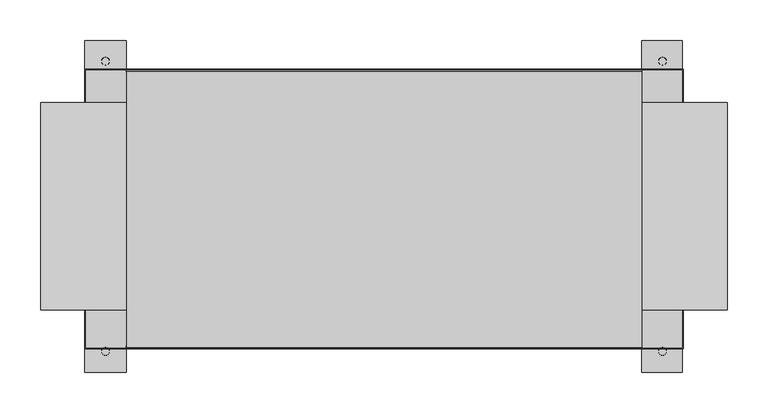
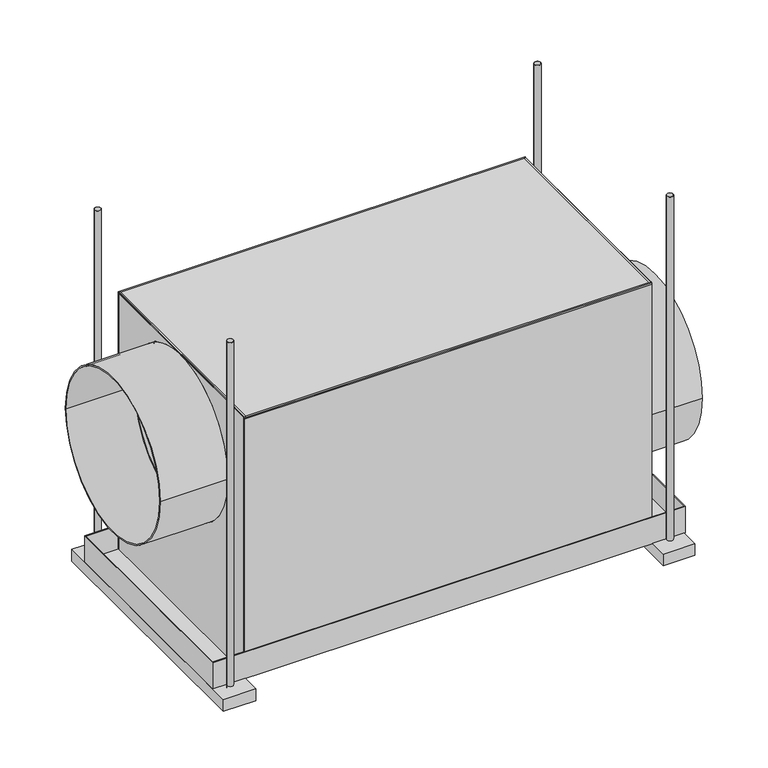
"""IFC4 building model written with IfcOpenShell, lengths in millimetres: proxy geometry, Dehumidifier2 : Dehumidifier2."""

from ifc_helpers import new_model, si_unit, point, frame, frame_2d, origin, origin_with_axes, place, context, project, spatial, polyline, circle_curve, trimmed, segment, composite_curve, outline, extrude, source, transform, mapped, element, save


def mechanical_equipment_66c16102(model_context):
    return source(origin(), model_context, "Body", "SweptSolid", [
        extrude(outline(polyline([(315.468, 367.9679849), (315.468, 30.1159835), (-315.0, 30.1159835), (-315.0, 367.9679849), (315.468, 367.9679849)])), frame((0.0, 0.0, 424.0), z_axis=(0.0, 0.0, 1.0), x_axis=(1.0, 0.0, 0.0)), (0.0, 0.0, 1.0), 2.0),
        extrude(outline(polyline([(32.1159835, 426.3135981), (367.9679849, 426.3135981), (367.9679849, 5.0), (32.1159835, 5.0), (32.1159835, 426.3135981)]), holes=[composite_curve([segment(trimmed(circle_curve(frame_2d((203.2, 296.7736)), 127.0), [point((330.2, 296.7736))], [point((76.2, 296.7736))], True, "CARTESIAN"), True, "CONTINUOUS"), segment(trimmed(circle_curve(frame_2d((203.2, 296.7736)), 127.0), [point((76.2, 296.7736))], [point((330.2, 296.7736))], True, "CARTESIAN"), True, "CONTINUOUS")], self_intersect=False)]), frame((-315.0, 0.0, 0.0), z_axis=(1.0, 0.0, 0.0), x_axis=(0.0, 1.0, 0.0)), (0.0, 0.0, 1.0), 2.0),
        extrude(outline(polyline([(367.9679849, 426.3135981), (367.9679849, 5.0), (32.1159835, 5.0), (32.1159835, 426.3135981), (367.9679849, 426.3135981)]), holes=[composite_curve([segment(trimmed(circle_curve(frame_2d((203.1999964, 172.8216)), 127.0), [point((76.1999964, 172.8216))], [point((330.1999964, 172.8216))], True, "CARTESIAN"), True, "CONTINUOUS"), segment(trimmed(circle_curve(frame_2d((203.1999964, 172.8216)), 127.0), [point((330.1999964, 172.8216))], [point((76.1999964, 172.8216))], True, "CARTESIAN"), True, "CONTINUOUS")], self_intersect=False)]), frame((313.0, 0.0, 0.0), z_axis=(1.0, 0.0, 0.0), x_axis=(0.0, 1.0, 0.0)), (0.0, 0.0, 1.0), 2.0),
        extrude(outline(polyline([(-315.468, 0.0), (-366.268, 0.0), (-366.268, 406.0), (-315.468, 406.0), (-315.468, 0.0)])), frame((0.0, 0.0, -19.05), z_axis=(0.0, 0.0, 1.0), x_axis=(1.0, 0.0, 0.0)), (0.0, 0.0, 1.0), 19.05),
        extrude(outline(polyline([(364.7439932, 0.0), (315.468, 0.0), (315.468, 406.0), (364.7439932, 406.0), (364.7439932, 0.0)])), frame((0.0, 0.0, -19.05), z_axis=(0.0, 0.0, 1.0), x_axis=(1.0, 0.0, 0.0)), (0.0, 0.0, 1.0), 18.9999999),
        extrude(outline(composite_curve([segment(trimmed(circle_curve(frame_2d((-340.868, 381.0)), 4.7625), [point((-345.6305, 381.0))], [point((-336.1055, 381.0))], False, "CARTESIAN"), True, "CONTINUOUS"), segment(trimmed(circle_curve(frame_2d((-340.868, 381.0)), 4.7625), [point((-336.1055, 381.0))], [point((-345.6305, 381.0))], False, "CARTESIAN"), True, "CONTINUOUS")], self_intersect=False), holes=[composite_curve([segment(trimmed(circle_curve(frame_2d((-340.868, 381.0)), 4.5625), [point((-345.4305, 381.0))], [point((-336.3055, 381.0))], True, "CARTESIAN"), True, "CONTINUOUS"), segment(trimmed(circle_curve(frame_2d((-340.868, 381.0)), 4.5625), [point((-336.3055, 381.0))], [point((-345.4305, 381.0))], True, "CARTESIAN"), True, "CONTINUOUS")], self_intersect=False)]), frame((0.0, 0.0, -32.0), z_axis=(0.0, 0.0, 1.0), x_axis=(1.0, 0.0, 0.0)), (0.0, 0.0, 1.0), 596.0),
        extrude(outline(composite_curve([segment(trimmed(circle_curve(frame_2d((340.868, 381.0)), 4.7625), [point((336.1055, 381.0))], [point((345.6305, 381.0))], False, "CARTESIAN"), True, "CONTINUOUS"), segment(trimmed(circle_curve(frame_2d((340.868, 381.0)), 4.7625), [point((345.6305, 381.0))], [point((336.1055, 381.0))], False, "CARTESIAN"), True, "CONTINUOUS")], self_intersect=False), holes=[composite_curve([segment(trimmed(circle_curve(frame_2d((340.868, 381.0)), 4.5625), [point((336.3055, 381.0))], [point((345.4305, 381.0))], True, "CARTESIAN"), True, "CONTINUOUS"), segment(trimmed(circle_curve(frame_2d((340.868, 381.0)), 4.5625), [point((345.4305, 381.0))], [point((336.3055, 381.0))], True, "CARTESIAN"), True, "CONTINUOUS")], self_intersect=False)]), frame((0.0, 0.0, -32.0), z_axis=(0.0, 0.0, 1.0), x_axis=(1.0, 0.0, 0.0)), (0.0, 0.0, 1.0), 596.0),
        extrude(outline(composite_curve([segment(trimmed(circle_curve(frame_2d((-340.868, 25.4)), 4.7625), [point((-345.6305, 25.4))], [point((-336.1055, 25.4))], False, "CARTESIAN"), True, "CONTINUOUS"), segment(trimmed(circle_curve(frame_2d((-340.868, 25.4)), 4.7625), [point((-336.1055, 25.4))], [point((-345.6305, 25.4))], False, "CARTESIAN"), True, "CONTINUOUS")], self_intersect=False), holes=[composite_curve([segment(trimmed(circle_curve(frame_2d((-340.868, 25.4)), 4.5625), [point((-345.4305, 25.4))], [point((-336.3055, 25.4))], True, "CARTESIAN"), True, "CONTINUOUS"), segment(trimmed(circle_curve(frame_2d((-340.868, 25.4)), 4.5625), [point((-336.3055, 25.4))], [point((-345.4305, 25.4))], True, "CARTESIAN"), True, "CONTINUOUS")], self_intersect=False)]), frame((0.0, 0.0, -32.0), z_axis=(0.0, 0.0, 1.0), x_axis=(1.0, 0.0, 0.0)), (0.0, 0.0, 1.0), 596.0),
        extrude(outline(composite_curve([segment(trimmed(circle_curve(frame_2d((340.868, 25.4)), 4.7625), [point((336.1055, 25.4))], [point((345.6305, 25.4))], False, "CARTESIAN"), True, "CONTINUOUS"), segment(trimmed(circle_curve(frame_2d((340.868, 25.4)), 4.7625), [point((345.6305, 25.4))], [point((336.1055, 25.4))], False, "CARTESIAN"), True, "CONTINUOUS")], self_intersect=False), holes=[composite_curve([segment(trimmed(circle_curve(frame_2d((340.868, 25.4)), 4.5625), [point((336.3055, 25.4))], [point((345.4305, 25.4))], True, "CARTESIAN"), True, "CONTINUOUS"), segment(trimmed(circle_curve(frame_2d((340.868, 25.4)), 4.5625), [point((345.4305, 25.4))], [point((336.3055, 25.4))], True, "CARTESIAN"), True, "CONTINUOUS")], self_intersect=False)]), frame((0.0, 0.0, -32.0), z_axis=(0.0, 0.0, 1.0), x_axis=(1.0, 0.0, 0.0)), (0.0, 0.0, 1.0), 596.0),
        extrude(outline(composite_curve([segment(trimmed(circle_curve(frame_2d((203.2, 296.7736)), 127.0), [point((76.2, 296.7736))], [point((330.2, 296.7736))], False, "CARTESIAN"), True, "CONTINUOUS"), segment(trimmed(circle_curve(frame_2d((203.2, 296.7736)), 127.0), [point((330.2, 296.7736))], [point((76.2, 296.7736))], False, "CARTESIAN"), True, "CONTINUOUS")], self_intersect=False), holes=[composite_curve([segment(trimmed(circle_curve(frame_2d((203.2, 296.7736)), 125.0), [point((78.2, 296.7736))], [point((328.2, 296.7736))], True, "CARTESIAN"), True, "CONTINUOUS"), segment(trimmed(circle_curve(frame_2d((203.2, 296.7736)), 125.0), [point((328.2, 296.7736))], [point((78.2, 296.7736))], True, "CARTESIAN"), True, "CONTINUOUS")], self_intersect=False)]), frame((-420.0, 0.0, 0.0), z_axis=(1.0, 0.0, 0.0), x_axis=(0.0, 1.0, 0.0)), (0.0, 0.0, 1.0), 105.0),
        extrude(outline(composite_curve([segment(trimmed(circle_curve(frame_2d((203.1999964, 172.8216)), 127.0), [point((330.1999964, 172.8216))], [point((76.1999964, 172.8216))], False, "CARTESIAN"), True, "CONTINUOUS"), segment(trimmed(circle_curve(frame_2d((203.1999964, 172.8216)), 127.0), [point((76.1999964, 172.8216))], [point((330.1999964, 172.8216))], False, "CARTESIAN"), True, "CONTINUOUS")], self_intersect=False), holes=[composite_curve([segment(trimmed(circle_curve(frame_2d((203.1999964, 172.8216)), 125.0), [point((328.1999964, 172.8216))], [point((78.1999964, 172.8216))], True, "CARTESIAN"), True, "CONTINUOUS"), segment(trimmed(circle_curve(frame_2d((203.1999964, 172.8216)), 125.0), [point((78.1999964, 172.8216))], [point((328.1999964, 172.8216))], True, "CARTESIAN"), True, "CONTINUOUS")], self_intersect=False)]), frame((315.0, 0.0, 0.0), z_axis=(1.0, 0.0, 0.0), x_axis=(0.0, 1.0, 0.0)), (0.0, 0.0, 1.0), 105.0),
        extrude(outline(polyline([(315.468, 369.9679849), (315.468, 367.9679849), (-315.467997, 367.9679849), (-315.467997, 369.9679849), (315.468, 369.9679849)])), frame((0.0, 0.0, 5.0), z_axis=(0.0, 0.0, 1.0), x_axis=(1.0, 0.0, 0.0)), (0.0, 0.0, 1.0), 421.3135981),
        extrude(outline(polyline([(-315.467997, 30.1159835), (-315.467997, 32.1159835), (315.468, 32.1159835), (315.468, 30.1159835), (-315.467997, 30.1159835)])), frame((0.0, 0.0, 5.0), z_axis=(0.0, 0.0, 1.0), x_axis=(1.0, 0.0, 0.0)), (0.0, 0.0, 1.0), 421.3135981),
        extrude(outline(polyline([(366.2680281, 371.4919849), (366.2680281, 28.5919849), (-366.268, 28.5919849), (-366.268, 371.4919849), (366.2680281, 371.4919849)]), holes=[polyline([(364.7439932, 369.9679849), (-364.744, 369.9679849), (-364.744, 30.1159835), (364.7439932, 30.1159835), (364.7439932, 369.9679849)])]), origin_with_axes(), (0.0, 0.0, 1.0), 43.1000014),
        extrude(outline(polyline([(364.7439932, 369.9679849), (364.7439932, 30.1159835), (-364.744, 30.1159835), (-364.744, 369.9679849), (364.7439932, 369.9679849)])), frame((0.0, 0.0, 1.8249999), z_axis=(0.0, 0.0, 1.0), x_axis=(1.0, 0.0, 0.0)), (0.0, 0.0, 1.0), 3.1750001),
    ])


if __name__ == "__main__":
    model = new_model("IFC4")
    model_context = context("Model", 3, world=origin())
    ifc_project = project(units=[si_unit("LENGTHUNIT", "METRE", prefix="MILLI")], contexts=[model_context])
    site = spatial("IfcSite", under=ifc_project)
    building = spatial("IfcBuilding", under=site)
    placement = place(None, origin())
    mechanical_equipment_shape = mechanical_equipment_66c16102(model_context)
    element("IfcBuildingElementProxy", 1, Name="Dehumidifier2 : Dehumidifier2", ObjectType="Dehumidifier2 : Dehumidifier2", at=placement, inside=building, context=model_context, shape_type="MappedRepresentation", body=[
        mapped(mechanical_equipment_shape, transform((0.0, 0.0, 0.0), x_axis=(1.0, 0.0, 0.0), y_axis=(0.0, 1.0, 0.0), z_axis=(0.0, 0.0, 1.0))),
    ])
    save(model, "model.ifc")
